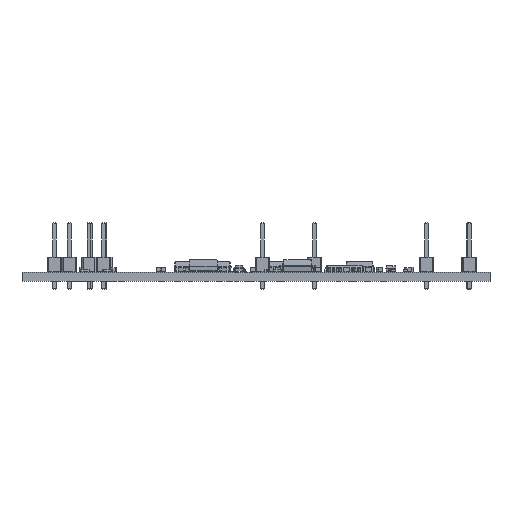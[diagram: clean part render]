
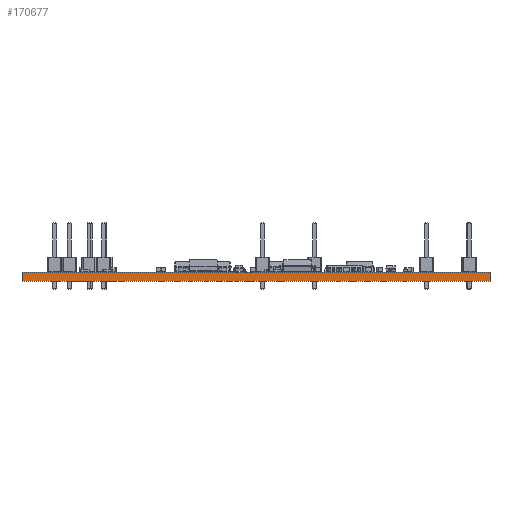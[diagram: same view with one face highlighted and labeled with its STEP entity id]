
A CAD part, front view. The second image highlights one B-rep face of the part: STEP entity #170677.
In plain terms, the highlighted planar face has unit normal (0, -1, 0).
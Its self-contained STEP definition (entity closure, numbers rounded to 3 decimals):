
#170496 = PLANE('',#170497);
#170497 = AXIS2_PLACEMENT_3D('',#170498,#170499,#170500);
#170498 = CARTESIAN_POINT('',(40.651,39.964,0.));
#170499 = DIRECTION('',(1.,0.,0.));
#170500 = DIRECTION('',(0.,-1.,0.));
#170521 = VERTEX_POINT('',#170522);
#170522 = CARTESIAN_POINT('',(40.651,-39.964,1.6));
#170536 = PLANE('',#170537);
#170537 = AXIS2_PLACEMENT_3D('',#170538,#170539,#170540);
#170538 = CARTESIAN_POINT('',(0.,0.,
    1.6));
#170539 = DIRECTION('',(0.,0.,-1.));
#170540 = DIRECTION('',(-1.,0.,0.));
#170548 = EDGE_CURVE('',#170549,#170521,#170551,.T.);
#170549 = VERTEX_POINT('',#170550);
#170550 = CARTESIAN_POINT('',(40.651,-39.964,0.));
#170551 = SURFACE_CURVE('',#170552,(#170556,#170563),.PCURVE_S1.);
#170552 = LINE('',#170553,#170554);
#170553 = CARTESIAN_POINT('',(40.651,-39.964,0.));
#170554 = VECTOR('',#170555,1.);
#170555 = DIRECTION('',(0.,0.,1.));
#170556 = PCURVE('',#170496,#170557);
#170557 = DEFINITIONAL_REPRESENTATION('',(#170558),#170562);
#170558 = LINE('',#170559,#170560);
#170559 = CARTESIAN_POINT('',(79.929,0.));
#170560 = VECTOR('',#170561,1.);
#170561 = DIRECTION('',(0.,-1.));
#170562 = ( GEOMETRIC_REPRESENTATION_CONTEXT(2) 
PARAMETRIC_REPRESENTATION_CONTEXT() REPRESENTATION_CONTEXT('2D SPACE',''
  ) );
#170563 = PCURVE('',#170564,#170569);
#170564 = PLANE('',#170565);
#170565 = AXIS2_PLACEMENT_3D('',#170566,#170567,#170568);
#170566 = CARTESIAN_POINT('',(40.651,-39.964,0.));
#170567 = DIRECTION('',(0.,-1.,0.));
#170568 = DIRECTION('',(-1.,0.,0.));
#170569 = DEFINITIONAL_REPRESENTATION('',(#170570),#170574);
#170570 = LINE('',#170571,#170572);
#170571 = CARTESIAN_POINT('',(0.,0.));
#170572 = VECTOR('',#170573,1.);
#170573 = DIRECTION('',(0.,-1.));
#170574 = ( GEOMETRIC_REPRESENTATION_CONTEXT(2) 
PARAMETRIC_REPRESENTATION_CONTEXT() REPRESENTATION_CONTEXT('2D SPACE',''
  ) );
#170590 = PLANE('',#170591);
#170591 = AXIS2_PLACEMENT_3D('',#170592,#170593,#170594);
#170592 = CARTESIAN_POINT('',(0.,0.,
    0.));
#170593 = DIRECTION('',(0.,0.,-1.));
#170594 = DIRECTION('',(-1.,0.,0.));
#170623 = PLANE('',#170624);
#170624 = AXIS2_PLACEMENT_3D('',#170625,#170626,#170627);
#170625 = CARTESIAN_POINT('',(-40.651,-39.964,0.));
#170626 = DIRECTION('',(-1.,0.,0.));
#170627 = DIRECTION('',(0.,1.,0.));
#170677 = ADVANCED_FACE('',(#170678),#170564,.T.);
#170678 = FACE_BOUND('',#170679,.T.);
#170679 = EDGE_LOOP('',(#170680,#170681,#170704,#170727));
#170680 = ORIENTED_EDGE('',*,*,#170548,.T.);
#170681 = ORIENTED_EDGE('',*,*,#170682,.T.);
#170682 = EDGE_CURVE('',#170521,#170683,#170685,.T.);
#170683 = VERTEX_POINT('',#170684);
#170684 = CARTESIAN_POINT('',(-40.651,-39.964,1.6));
#170685 = SURFACE_CURVE('',#170686,(#170690,#170697),.PCURVE_S1.);
#170686 = LINE('',#170687,#170688);
#170687 = CARTESIAN_POINT('',(40.651,-39.964,1.6));
#170688 = VECTOR('',#170689,1.);
#170689 = DIRECTION('',(-1.,0.,0.));
#170690 = PCURVE('',#170564,#170691);
#170691 = DEFINITIONAL_REPRESENTATION('',(#170692),#170696);
#170692 = LINE('',#170693,#170694);
#170693 = CARTESIAN_POINT('',(0.,-1.6));
#170694 = VECTOR('',#170695,1.);
#170695 = DIRECTION('',(1.,0.));
#170696 = ( GEOMETRIC_REPRESENTATION_CONTEXT(2) 
PARAMETRIC_REPRESENTATION_CONTEXT() REPRESENTATION_CONTEXT('2D SPACE',''
  ) );
#170697 = PCURVE('',#170536,#170698);
#170698 = DEFINITIONAL_REPRESENTATION('',(#170699),#170703);
#170699 = LINE('',#170700,#170701);
#170700 = CARTESIAN_POINT('',(-40.651,-39.964));
#170701 = VECTOR('',#170702,1.);
#170702 = DIRECTION('',(1.,0.));
#170703 = ( GEOMETRIC_REPRESENTATION_CONTEXT(2) 
PARAMETRIC_REPRESENTATION_CONTEXT() REPRESENTATION_CONTEXT('2D SPACE',''
  ) );
#170704 = ORIENTED_EDGE('',*,*,#170705,.F.);
#170705 = EDGE_CURVE('',#170706,#170683,#170708,.T.);
#170706 = VERTEX_POINT('',#170707);
#170707 = CARTESIAN_POINT('',(-40.651,-39.964,0.));
#170708 = SURFACE_CURVE('',#170709,(#170713,#170720),.PCURVE_S1.);
#170709 = LINE('',#170710,#170711);
#170710 = CARTESIAN_POINT('',(-40.651,-39.964,0.));
#170711 = VECTOR('',#170712,1.);
#170712 = DIRECTION('',(0.,0.,1.));
#170713 = PCURVE('',#170564,#170714);
#170714 = DEFINITIONAL_REPRESENTATION('',(#170715),#170719);
#170715 = LINE('',#170716,#170717);
#170716 = CARTESIAN_POINT('',(81.303,0.));
#170717 = VECTOR('',#170718,1.);
#170718 = DIRECTION('',(0.,-1.));
#170719 = ( GEOMETRIC_REPRESENTATION_CONTEXT(2) 
PARAMETRIC_REPRESENTATION_CONTEXT() REPRESENTATION_CONTEXT('2D SPACE',''
  ) );
#170720 = PCURVE('',#170623,#170721);
#170721 = DEFINITIONAL_REPRESENTATION('',(#170722),#170726);
#170722 = LINE('',#170723,#170724);
#170723 = CARTESIAN_POINT('',(0.,0.));
#170724 = VECTOR('',#170725,1.);
#170725 = DIRECTION('',(0.,-1.));
#170726 = ( GEOMETRIC_REPRESENTATION_CONTEXT(2) 
PARAMETRIC_REPRESENTATION_CONTEXT() REPRESENTATION_CONTEXT('2D SPACE',''
  ) );
#170727 = ORIENTED_EDGE('',*,*,#170728,.F.);
#170728 = EDGE_CURVE('',#170549,#170706,#170729,.T.);
#170729 = SURFACE_CURVE('',#170730,(#170734,#170741),.PCURVE_S1.);
#170730 = LINE('',#170731,#170732);
#170731 = CARTESIAN_POINT('',(40.651,-39.964,0.));
#170732 = VECTOR('',#170733,1.);
#170733 = DIRECTION('',(-1.,0.,0.));
#170734 = PCURVE('',#170564,#170735);
#170735 = DEFINITIONAL_REPRESENTATION('',(#170736),#170740);
#170736 = LINE('',#170737,#170738);
#170737 = CARTESIAN_POINT('',(0.,0.));
#170738 = VECTOR('',#170739,1.);
#170739 = DIRECTION('',(1.,0.));
#170740 = ( GEOMETRIC_REPRESENTATION_CONTEXT(2) 
PARAMETRIC_REPRESENTATION_CONTEXT() REPRESENTATION_CONTEXT('2D SPACE',''
  ) );
#170741 = PCURVE('',#170590,#170742);
#170742 = DEFINITIONAL_REPRESENTATION('',(#170743),#170747);
#170743 = LINE('',#170744,#170745);
#170744 = CARTESIAN_POINT('',(-40.651,-39.964));
#170745 = VECTOR('',#170746,1.);
#170746 = DIRECTION('',(1.,0.));
#170747 = ( GEOMETRIC_REPRESENTATION_CONTEXT(2) 
PARAMETRIC_REPRESENTATION_CONTEXT() REPRESENTATION_CONTEXT('2D SPACE',''
  ) );
